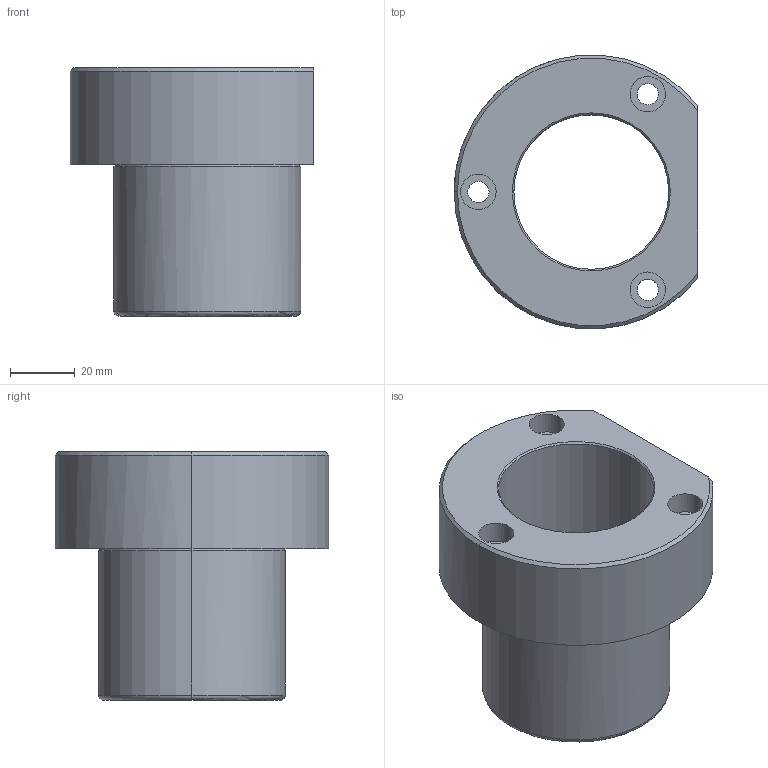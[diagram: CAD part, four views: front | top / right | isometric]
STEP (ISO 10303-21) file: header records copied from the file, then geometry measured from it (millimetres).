
FILE_DESCRIPTION(('CATIA V5 STEP Exchange'),'2;1');
FILE_NAME('C:\Users\Utente\Desktop\IO LAVORO\3D X SITO CF\X SITO\737\737-40.stp','2021-01-17T17:01:40+00:00',('none'),('none'),'CATIA Version 5 Release 20 GA (IN-10)','CATIA V5 STEP AP203','none');
FILE_SCHEMA(('CONFIG_CONTROL_DESIGN'));
Length unit declared in the file: millimetre
Products named in the file (1): 737-40
Bounding box: 75.5 x 84.8 x 77 mm (x, y, z)
Volume: 139933.3 mm3; surface area: 36986.9 mm2
Topology: 1 solids, 1 shells, 37 faces, 82 edges, 51 vertices
Faces by surface type: cylinder 18, plane 7, cone 6, torus 6
Entity records: 1268 total; most frequent: CARTESIAN_POINT 423, ORIENTED_EDGE 164, DIRECTION 141, EDGE_CURVE 82, AXIS2_PLACEMENT_3D 79, VERTEX_POINT 51, EDGE_LOOP 49, CIRCLE 41
